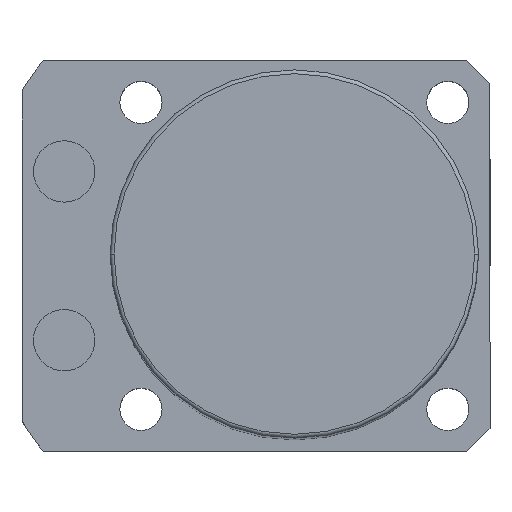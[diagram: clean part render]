
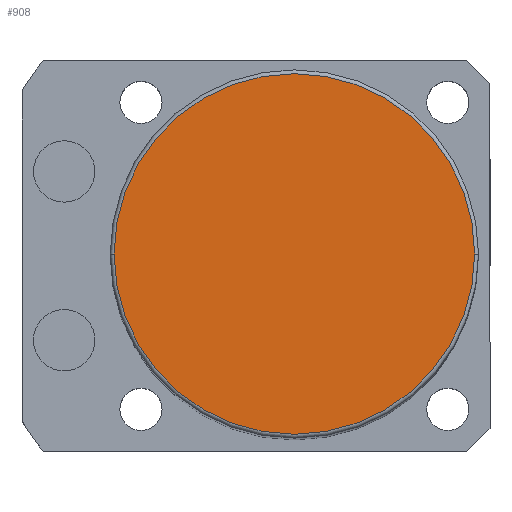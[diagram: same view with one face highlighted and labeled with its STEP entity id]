
A CAD part, top view. The second image highlights one B-rep face of the part: STEP entity #908.
In plain terms, the highlighted planar face has unit normal (0, 0, 1).
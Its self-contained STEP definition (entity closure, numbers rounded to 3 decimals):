
#186 = CARTESIAN_POINT ( 'NONE',  ( 0., 0., 151. ) ) ;
#254 = EDGE_CURVE ( 'NONE', #2013, #1643, #812, .T. ) ;
#422 = CARTESIAN_POINT ( 'NONE',  ( 0., 0., 151. ) ) ;
#490 = CARTESIAN_POINT ( 'NONE',  ( 0., 0., 151. ) ) ;
#696 = EDGE_LOOP ( 'NONE', ( #2200, #1937 ) ) ;
#812 = CIRCLE ( 'NONE', #1521, 23.5 ) ;
#870 = DIRECTION ( 'NONE',  ( 0., 0., 1. ) ) ;
#908 = ADVANCED_FACE ( 'NONE', ( #2101 ), #2381, .T. ) ;
#975 = CARTESIAN_POINT ( 'NONE',  ( 23.5, 0., 151. ) ) ;
#1033 = CARTESIAN_POINT ( 'NONE',  ( -23.5, 0., 151. ) ) ;
#1243 = DIRECTION ( 'NONE',  ( 0., 0., 1. ) ) ;
#1521 = AXIS2_PLACEMENT_3D ( 'NONE', #186, #1548, #1538 ) ;
#1538 = DIRECTION ( 'NONE',  ( 1., 0., 0. ) ) ;
#1548 = DIRECTION ( 'NONE',  ( 0., 0., 1. ) ) ;
#1643 = VERTEX_POINT ( 'NONE', #975 ) ;
#1736 = AXIS2_PLACEMENT_3D ( 'NONE', #422, #1243, #2023 ) ;
#1871 = DIRECTION ( 'NONE',  ( 1., 0., 0. ) ) ;
#1937 = ORIENTED_EDGE ( 'NONE', *, *, #254, .T. ) ;
#2013 = VERTEX_POINT ( 'NONE', #1033 ) ;
#2023 = DIRECTION ( 'NONE',  ( 1., 0., 0. ) ) ;
#2076 = CIRCLE ( 'NONE', #2205, 23.5 ) ;
#2101 = FACE_OUTER_BOUND ( 'NONE', #696, .T. ) ;
#2200 = ORIENTED_EDGE ( 'NONE', *, *, #2493, .T. ) ;
#2205 = AXIS2_PLACEMENT_3D ( 'NONE', #490, #870, #1871 ) ;
#2381 = PLANE ( 'NONE',  #1736 ) ;
#2493 = EDGE_CURVE ( 'NONE', #1643, #2013, #2076, .T. ) ;
